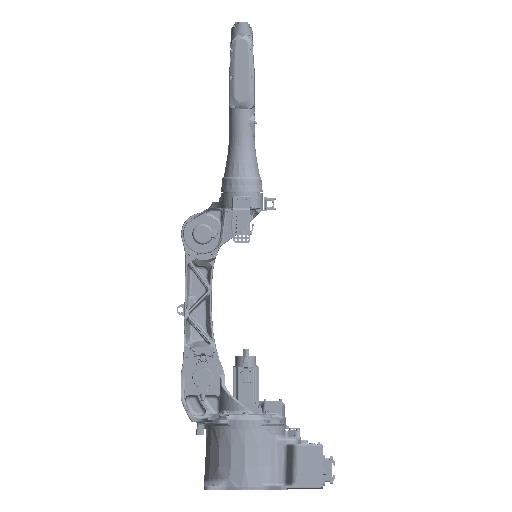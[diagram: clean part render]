
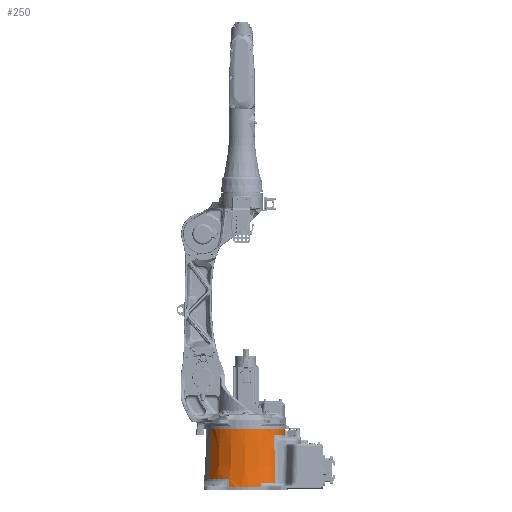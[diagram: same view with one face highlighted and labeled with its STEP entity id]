
A CAD part, left-side view. The second image highlights one B-rep face of the part: STEP entity #250.
In plain terms, the highlighted conical face has half-angle 3 degrees and reference radius 149.265 mm.
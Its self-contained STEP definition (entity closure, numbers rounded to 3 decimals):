
#117=VERTEX_POINT('',#116) ;
#119=VERTEX_POINT('',#118) ;
#145=VERTEX_POINT('',#144) ;
#152=VERTEX_POINT('',#151) ;
#160=VERTEX_POINT('',#159) ;
#167=VERTEX_POINT('',#166) ;
#175=VERTEX_POINT('',#174) ;
#182=VERTEX_POINT('',#181) ;
#190=VERTEX_POINT('',#189) ;
#197=VERTEX_POINT('',#196) ;
#205=VERTEX_POINT('',#204) ;
#212=VERTEX_POINT('',#211) ;
#220=VERTEX_POINT('',#219) ;
#227=VERTEX_POINT('',#226) ;
#142=VECTOR('Line Direction',#141,1.) ;
#231=VECTOR('Line Direction',#230,1.) ;
#113=DIRECTION('Axis2P3D Direction',(0.,0.,1.)) ;
#136=DIRECTION('Axis2P3D Direction',(-0.,-0.,-1.)) ;
#137=DIRECTION('Axis2P3D XDirection',(-0.479,0.878,0.)) ;
#141=DIRECTION('Vector Direction',(-0.025,0.046,-0.999)) ;
#148=DIRECTION('Axis2P3D Direction',(0.,0.,-1.)) ;
#163=DIRECTION('Axis2P3D Direction',(0.,0.,-1.)) ;
#178=DIRECTION('Axis2P3D Direction',(0.,0.,-1.)) ;
#193=DIRECTION('Axis2P3D Direction',(0.,0.,-1.)) ;
#208=DIRECTION('Axis2P3D Direction',(0.,0.,-1.)) ;
#223=DIRECTION('Axis2P3D Direction',(0.,0.,-1.)) ;
#230=DIRECTION('Vector Direction',(0.025,-0.046,-0.999)) ;
#112=CARTESIAN_POINT('Axis2P3D Location',(0.,0.,233.)) ;
#116=CARTESIAN_POINT('Vertex',(-72.139,132.05,233.)) ;
#118=CARTESIAN_POINT('Vertex',(72.139,-132.05,233.)) ;
#135=CARTESIAN_POINT('Axis2P3D Location',(0.,0.,256.)) ;
#140=CARTESIAN_POINT('Line Origine',(-74.614,136.58,134.5)) ;
#144=CARTESIAN_POINT('Vertex',(-76.917,140.797,42.828)) ;
#147=CARTESIAN_POINT('Axis2P3D Location',(0.,0.,42.828)) ;
#151=CARTESIAN_POINT('Vertex',(-147.241,63.718,42.828)) ;
#155=CARTESIAN_POINT('Control Point',(-148.864,63.902,13.)) ;
#156=CARTESIAN_POINT('Control Point',(-148.323,63.841,22.943)) ;
#157=CARTESIAN_POINT('Control Point',(-147.782,63.78,32.885)) ;
#158=CARTESIAN_POINT('Control Point',(-147.241,63.718,42.828)) ;
#159=CARTESIAN_POINT('Vertex',(-148.864,63.902,13.)) ;
#162=CARTESIAN_POINT('Axis2P3D Location',(0.,0.,13.)) ;
#166=CARTESIAN_POINT('Vertex',(-150.762,-59.286,13.)) ;
#170=CARTESIAN_POINT('Control Point',(-150.084,-59.223,25.477)) ;
#171=CARTESIAN_POINT('Control Point',(-150.31,-59.244,21.318)) ;
#172=CARTESIAN_POINT('Control Point',(-150.536,-59.265,17.159)) ;
#173=CARTESIAN_POINT('Control Point',(-150.762,-59.286,13.)) ;
#174=CARTESIAN_POINT('Vertex',(-150.084,-59.223,25.477)) ;
#177=CARTESIAN_POINT('Axis2P3D Location',(0.,0.,25.477)) ;
#181=CARTESIAN_POINT('Vertex',(-115.074,-113.095,25.477)) ;
#185=CARTESIAN_POINT('Control Point',(-105.753,-108.767,209.477)) ;
#186=CARTESIAN_POINT('Control Point',(-108.854,-110.235,148.144)) ;
#187=CARTESIAN_POINT('Control Point',(-111.961,-111.677,86.811)) ;
#188=CARTESIAN_POINT('Control Point',(-115.074,-113.095,25.477)) ;
#189=CARTESIAN_POINT('Vertex',(-105.753,-108.767,209.477)) ;
#192=CARTESIAN_POINT('Axis2P3D Location',(0.,0.,209.477)) ;
#196=CARTESIAN_POINT('Vertex',(-20.151,-150.359,209.477)) ;
#200=CARTESIAN_POINT('Control Point',(-20.151,-150.359,209.477)) ;
#201=CARTESIAN_POINT('Control Point',(-19.666,-150.031,216.897)) ;
#202=CARTESIAN_POINT('Control Point',(-19.18,-149.702,224.318)) ;
#203=CARTESIAN_POINT('Control Point',(-18.694,-149.371,231.738)) ;
#204=CARTESIAN_POINT('Vertex',(-18.694,-149.371,231.738)) ;
#207=CARTESIAN_POINT('Axis2P3D Location',(0.,0.,231.738)) ;
#211=CARTESIAN_POINT('Vertex',(18.694,-149.371,231.738)) ;
#215=CARTESIAN_POINT('Control Point',(18.694,-149.371,231.738)) ;
#216=CARTESIAN_POINT('Control Point',(19.18,-149.702,224.318)) ;
#217=CARTESIAN_POINT('Control Point',(19.666,-150.031,216.897)) ;
#218=CARTESIAN_POINT('Control Point',(20.151,-150.359,209.477)) ;
#219=CARTESIAN_POINT('Vertex',(20.151,-150.359,209.477)) ;
#222=CARTESIAN_POINT('Axis2P3D Location',(0.,0.,209.477)) ;
#226=CARTESIAN_POINT('Vertex',(72.73,-133.132,209.477)) ;
#229=CARTESIAN_POINT('Line Origine',(74.614,-136.58,134.5)) ;
#114=AXIS2_PLACEMENT_3D('Circle Axis2P3D',#112,#113,$) ;
#138=AXIS2_PLACEMENT_3D('Cone Axis2P3D',#135,#136,#137) ;
#149=AXIS2_PLACEMENT_3D('Circle Axis2P3D',#147,#148,$) ;
#164=AXIS2_PLACEMENT_3D('Circle Axis2P3D',#162,#163,$) ;
#179=AXIS2_PLACEMENT_3D('Circle Axis2P3D',#177,#178,$) ;
#194=AXIS2_PLACEMENT_3D('Circle Axis2P3D',#192,#193,$) ;
#209=AXIS2_PLACEMENT_3D('Circle Axis2P3D',#207,#208,$) ;
#224=AXIS2_PLACEMENT_3D('Circle Axis2P3D',#222,#223,$) ;
#115=CIRCLE('generated circle',#114,150.47) ;
#150=CIRCLE('generated circle',#149,160.437) ;
#165=CIRCLE('generated circle',#164,162.) ;
#180=CIRCLE('generated circle',#179,161.346) ;
#195=CIRCLE('generated circle',#194,151.703) ;
#210=CIRCLE('generated circle',#209,150.536) ;
#225=CIRCLE('generated circle',#224,151.703) ;
#139=CONICAL_SURFACE('Cone',#138,149.265,0.052) ;
#143=LINE('Line',#140,#142) ;
#232=LINE('Line',#229,#231) ;
#120=EDGE_CURVE('',#117,#119,#115,.T.) ;
#146=EDGE_CURVE('',#145,#117,#143,.F.) ;
#153=EDGE_CURVE('',#152,#145,#150,.T.) ;
#161=EDGE_CURVE('',#152,#160,#154,.F.) ;
#168=EDGE_CURVE('',#167,#160,#165,.T.) ;
#176=EDGE_CURVE('',#167,#175,#169,.F.) ;
#183=EDGE_CURVE('',#175,#182,#180,.F.) ;
#191=EDGE_CURVE('',#182,#190,#184,.F.) ;
#198=EDGE_CURVE('',#197,#190,#195,.T.) ;
#206=EDGE_CURVE('',#197,#205,#199,.T.) ;
#213=EDGE_CURVE('',#212,#205,#210,.T.) ;
#221=EDGE_CURVE('',#212,#220,#214,.T.) ;
#228=EDGE_CURVE('',#227,#220,#225,.T.) ;
#233=EDGE_CURVE('',#227,#119,#232,.F.) ;
#235=ORIENTED_EDGE('',*,*,#146,.F.) ;
#236=ORIENTED_EDGE('',*,*,#153,.F.) ;
#237=ORIENTED_EDGE('',*,*,#161,.T.) ;
#238=ORIENTED_EDGE('',*,*,#168,.F.) ;
#239=ORIENTED_EDGE('',*,*,#176,.T.) ;
#240=ORIENTED_EDGE('',*,*,#183,.T.) ;
#241=ORIENTED_EDGE('',*,*,#191,.T.) ;
#242=ORIENTED_EDGE('',*,*,#198,.F.) ;
#243=ORIENTED_EDGE('',*,*,#206,.T.) ;
#244=ORIENTED_EDGE('',*,*,#213,.F.) ;
#245=ORIENTED_EDGE('',*,*,#221,.T.) ;
#246=ORIENTED_EDGE('',*,*,#228,.F.) ;
#247=ORIENTED_EDGE('',*,*,#233,.T.) ;
#248=ORIENTED_EDGE('',*,*,#120,.F.) ;
#234=EDGE_LOOP('',(#235,#236,#237,#238,#239,#240,#241,#242,#243,#244,#245,#246,#247,#248)) ;
#250=ADVANCED_FACE('BASE',(#249),#139,.T.) ;
#154=B_SPLINE_CURVE_WITH_KNOTS('',3,(#155,#156,#157,#158),.UNSPECIFIED.,.F.,.U.,(4,4),(68.836,111.085),.UNIFORM_KNOTS.) ;
#169=B_SPLINE_CURVE_WITH_KNOTS('',3,(#170,#171,#172,#173),.UNSPECIFIED.,.F.,.U.,(4,4),(395.346,413.017),.UNIFORM_KNOTS.) ;
#184=B_SPLINE_CURVE_WITH_KNOTS('',3,(#185,#186,#187,#188),.UNSPECIFIED.,.F.,.U.,(4,4),(134.74,395.367),.UNIFORM_KNOTS.) ;
#199=B_SPLINE_CURVE_WITH_KNOTS('',3,(#200,#201,#202,#203),.UNSPECIFIED.,.F.,.U.,(4,4),(347.646,379.233),.UNIFORM_KNOTS.) ;
#214=B_SPLINE_CURVE_WITH_KNOTS('',3,(#215,#216,#217,#218),.UNSPECIFIED.,.F.,.U.,(4,4),(103.392,134.979),.UNIFORM_KNOTS.) ;
#249=FACE_OUTER_BOUND('',#234,.T.) ;
